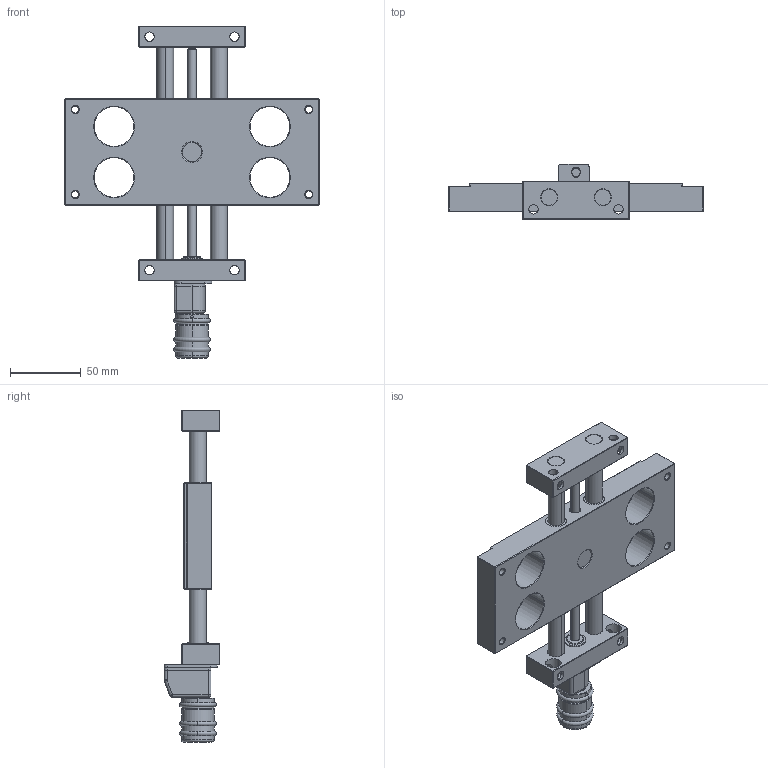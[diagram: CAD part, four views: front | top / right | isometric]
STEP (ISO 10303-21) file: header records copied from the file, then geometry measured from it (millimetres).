
FILE_DESCRIPTION (( 'STEP AP203' ), '1' );
FILE_NAME ('KT7312-L-PA-Kreuztisch.STEP', '2016-01-15T17:12:55', ( '' ), ( '' ), 'SwSTEP 2.0', 'SolidWorks 2014', '' );
FILE_SCHEMA (( 'CONFIG_CONTROL_DESIGN' ));
Length unit declared in the file: millimetre
Products named in the file (4): PA0812-PTHT-000-Positionsanzeiger-komplett_n_Standard; KT12-000-03-L-Schlitten-komplett; KT7312-L-PA-Kreuztisch; PT7312-000-01-Festteil-PA(E)_n_Standard
Assembly tree (3 placements, depth 2):
  KT7312-L-PA-Kreuztisch
    PT7312-000-01-Festteil-PA(E)_n_Standard
    PA0812-PTHT-000-Positionsanzeiger-komplett_n_Standard
    KT12-000-03-L-Schlitten-komplett
Bounding box: 180 x 39.2 x 234.53 mm (x, y, z)
Volume: 309092.9 mm3; surface area: 90089.4 mm2
Topology: 5 solids, 5 shells, 538 faces, 1247 edges, 767 vertices
Faces by surface type: plane 210, cylinder 201, cone 99, torus 15, sphere 7, bspline 6
Entity records: 16973 total; most frequent: CARTESIAN_POINT 3944, DIRECTION 2789, ORIENTED_EDGE 2476, EDGE_CURVE 1238, AXIS2_PLACEMENT_3D 1070, VERTEX_POINT 767, EDGE_LOOP 659, LINE 649
